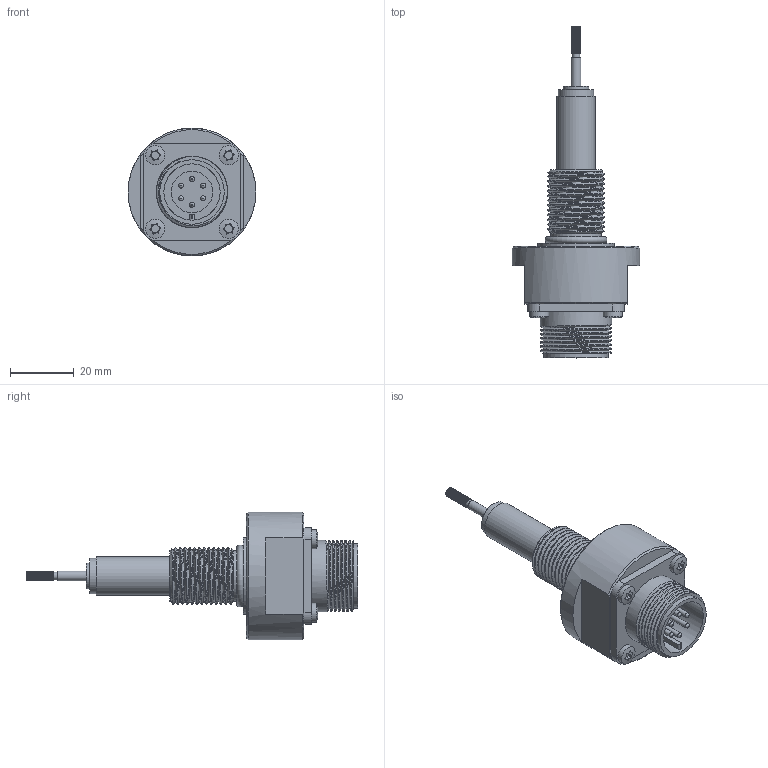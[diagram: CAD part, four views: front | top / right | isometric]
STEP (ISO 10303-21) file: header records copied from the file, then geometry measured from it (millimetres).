
FILE_DESCRIPTION( ( 'Unknown' ), '1' );
FILE_NAME( 'N:/Engineering/CAD/LVDT/HYD/Kunden-3D-Modell/SM2-HYD-18-S.stp', 'Unknown', ( 'Unknown' ), ( 'Unknown' ), 'PSStep 17.0.49', 'Unknown', ' ' );
FILE_SCHEMA( ( 'AUTOMOTIVE_DESIGN { 1 0 10303 214 1 1 1 1 }' ) );
Length unit declared in the file: millimetre
Products named in the file (9): Assem1; Endkappe; Innenrohr_SM5-HYD; Kernverlängerung_SM5-HYD; SM-HYD-Flansch_M18_vereinfacht; O-Ring_15,4x2,1; MIL-Stecker_2; DIN7985_M3-6_Torx; Aussenrohr_SM2-HYD_vereinfacht
Assembly tree (11 placements, depth 2):
  Assem1
    Endkappe
    Innenrohr_SM5-HYD
    Kernverlängerung_SM5-HYD
    SM-HYD-Flansch_M18_vereinfacht
    O-Ring_15,4x2,1
    MIL-Stecker_2
    DIN7985_M3-6_Torx  x4
    Aussenrohr_SM2-HYD_vereinfacht
Bounding box: 40 x 103.9 x 40 mm (x, y, z)
Volume: 34923.4 mm3; surface area: 19886.5 mm2
Topology: 11 solids, 11 shells, 255 faces, 589 edges, 385 vertices
Faces by surface type: plane 132, cylinder 82, cone 22, bspline 14, sphere 4, torus 1
Full cylindrical faces by diameter (mm): 1.4 x6, 1.6 x6, 2.013 x1, 2.4 x1, 2.5 x8, 3 x9, 4 x1, 6 x6, 8 x1, 10 x1, 11 x2, 12 x3, 13 x1, 15.8 x1, 17.6 x1, 18.8 x1, 20.2 x1, 22.3 x7, 24 x1, 40 x1
Entity records: 13563 total; most frequent: CARTESIAN_POINT 8176, DIRECTION 792, ORIENTED_EDGE 656, AXIS2_PLACEMENT_3D 336, EDGE_CURVE 328, EDGE_LOOP 289, VERTEX_POINT 255, FACE_OUTER_BOUND 236
